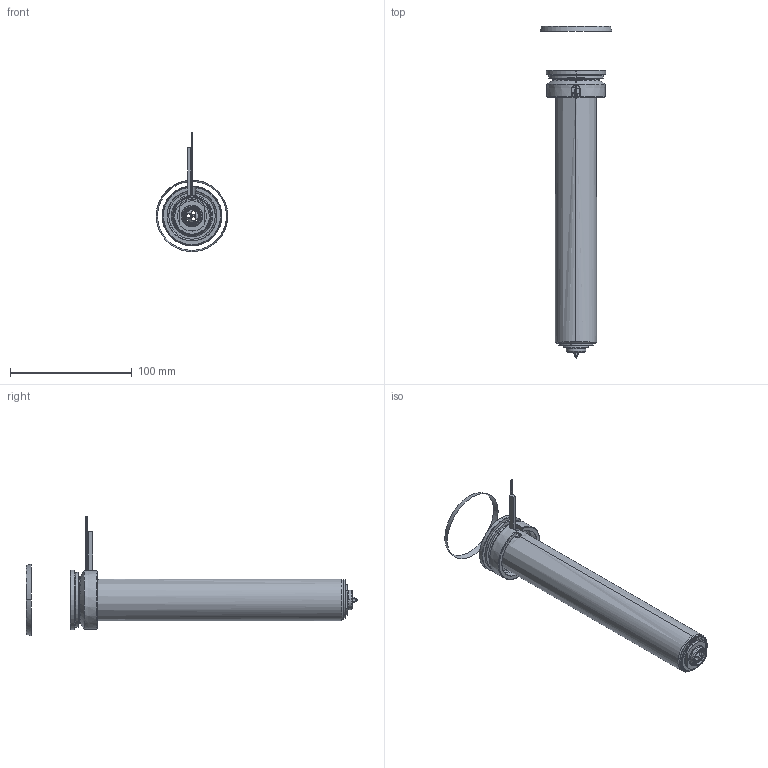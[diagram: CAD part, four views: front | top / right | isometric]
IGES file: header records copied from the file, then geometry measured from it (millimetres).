
Start section: SolidWorks IGES file using analytic representation for surfaces
Global section: file name: C:\Documents and Settings\ws-20\Desktop\TEM\UGEP5005-S-A-1 [Øf-1.18 ØC-12].IGS; native system: SolidWorks 2012; preprocessor: SolidWorks 2012; author: ws-20; date: 120426.100129; units: millimetre
Bounding box: 58.79 x 272.24 x 98.01 mm (x, y, z)
Surface area: 88806.5 mm2 (no closed solid volume)
Topology: 0 solids, 0 shells, 125 faces, 2379 edges, 2379 vertices
Faces by surface type: revolution 81, bspline 44
